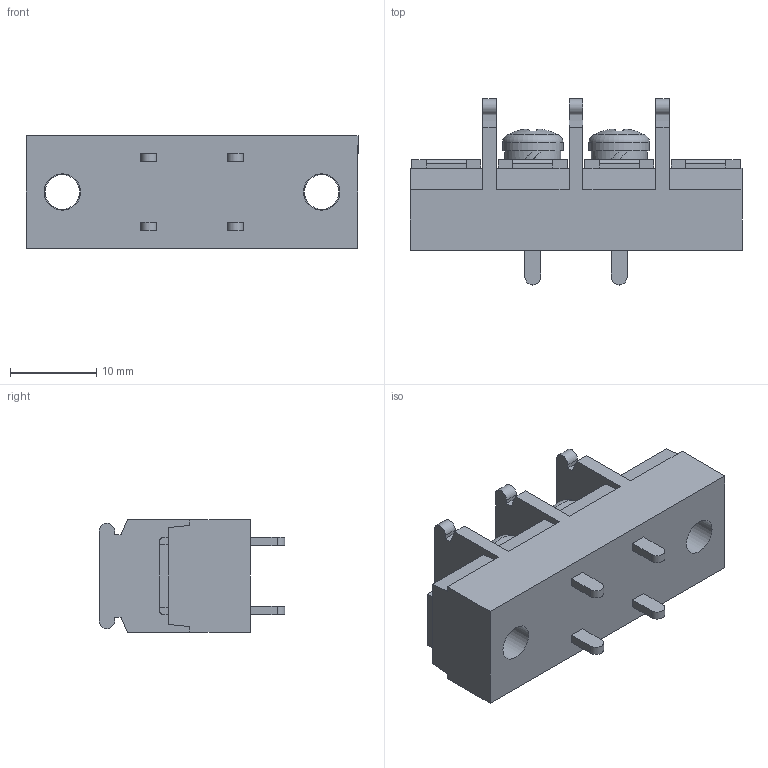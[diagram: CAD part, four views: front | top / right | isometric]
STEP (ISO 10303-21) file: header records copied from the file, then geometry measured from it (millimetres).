
FILE_DESCRIPTION(/* description */ ('Alibre Inc.'),/* implementation_level */ '2;1');
FILE_NAME(/* name */ 'export0',/* time_stamp */ '2015-10-17T18:59:12+09:00',/* author */ (''),/* organization */ (''),/* preprocessor_version */ 'ST-DEVELOPER v14',/* originating_system */ 'Alibre',/* authorisation */ '');
FILE_SCHEMA (('CONFIG_CONTROL_DESIGN'));
Length unit declared in the file: centimetre
Products named in the file (1): ID_1
Bounding box: 38.4 x 21.5 x 13 mm (x, y, z)
Volume: 5278.8 mm3; surface area: 3345.3 mm2
Topology: 1 solids, 17 shells, 576 faces, 1526 edges, 1016 vertices
Faces by surface type: plane 430, bspline 104, cylinder 28, cone 8, torus 4, sphere 2
Full cylindrical faces by diameter (mm): 4 x4, 4.2 x2, 6.5 x2, 7 x2
Entity records: 17259 total; most frequent: CARTESIAN_POINT 4073, ORIENTED_EDGE 3012, DIRECTION 1894, EDGE_CURVE 1506, VECTOR 1170, LINE 1170, VERTEX_POINT 1008, EDGE_LOOP 636
